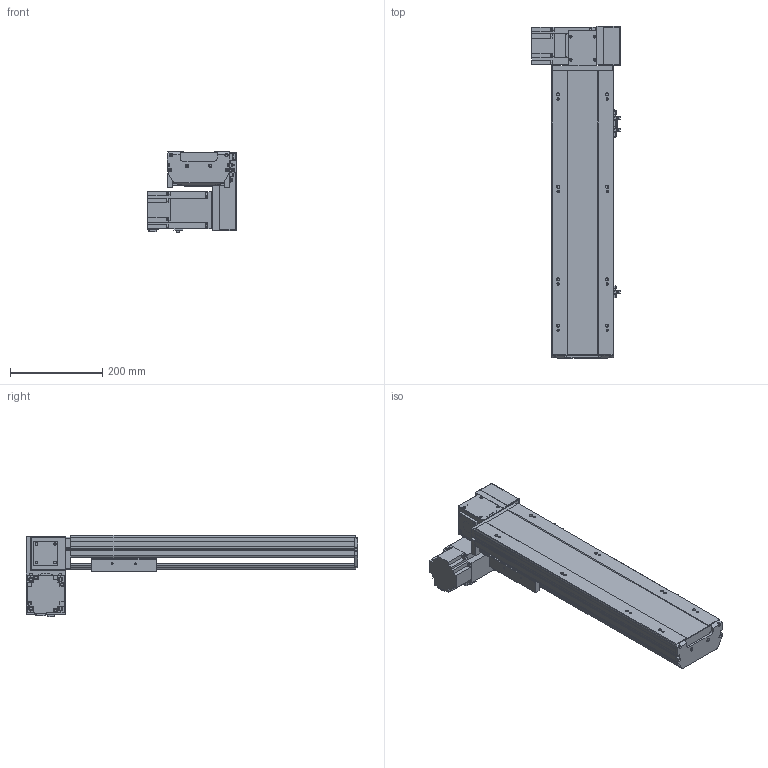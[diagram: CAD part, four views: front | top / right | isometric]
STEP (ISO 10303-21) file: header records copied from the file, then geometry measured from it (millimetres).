
FILE_DESCRIPTION (( 'STEP AP203' ), '1' );
FILE_NAME ('7.STEP', '2020-10-27T11:44:09', ( '' ), ( '' ), 'SwSTEP 2.0', 'SolidWorks 2016', '' );
FILE_SCHEMA (( 'CONFIG_CONTROL_DESIGN' ));
Length unit declared in the file: millimetre
Products named in the file (12): BTB14-RU-06; BTB14-RU-T75; BTB14-RU-01; FS-33-T75; BTB14-RU-04; BTB14-RU-23; BTB14-RU-HZ; BTB14-RU-菁釱; BTB14-RU-24; 7; FS-08-T75; FS-07-T75
Assembly tree (14 placements, depth 2):
  7
    BTB14-RU-菁釱
    BTB14-RU-01
    BTB14-RU-04  x3
    BTB14-RU-06
    BTB14-RU-23  x2
    BTB14-RU-24
    BTB14-RU-HZ
    FS-07-T75
    FS-08-T75
    FS-33-T75
    BTB14-RU-T75
Bounding box: 191.8 x 718 x 175.5 mm (x, y, z)
Volume: 4093956.1 mm3; surface area: 843900.2 mm2
Topology: 24 solids, 24 shells, 1750 faces, 4603 edges, 2962 vertices
Faces by surface type: plane 1033, cylinder 466, bspline 127, cone 112, torus 12
Entity records: 51668 total; most frequent: CARTESIAN_POINT 16217, ORIENTED_EDGE 7152, DIRECTION 6834, EDGE_CURVE 3576, LINE 2444, VECTOR 2444, VERTEX_POINT 2340, AXIS2_PLACEMENT_3D 2195
